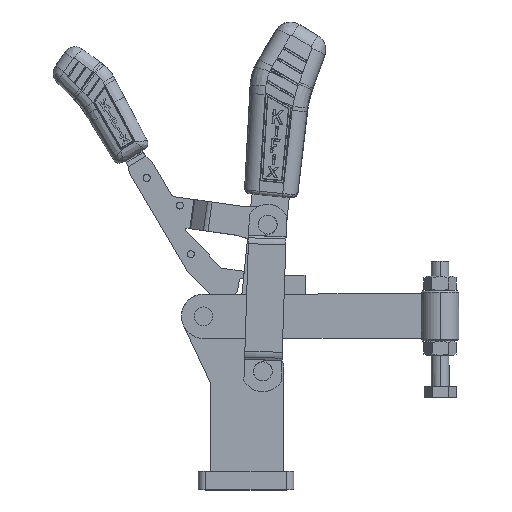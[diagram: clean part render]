
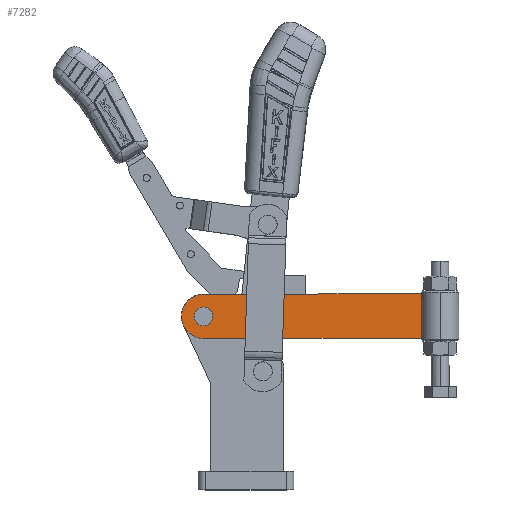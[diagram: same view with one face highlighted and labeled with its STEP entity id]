
A CAD part, top view. The second image highlights one B-rep face of the part: STEP entity #7282.
In plain terms, the highlighted planar face has unit normal (0, 0, 1) as drawn and (0, 0, -1) by its records, which use the part's own axes.
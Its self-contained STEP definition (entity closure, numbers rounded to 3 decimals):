
#303 = ORIENTED_EDGE ( 'NONE', *, *, #21301, .T. ) ;
#1673 = AXIS2_PLACEMENT_3D ( 'NONE', #21283, #28886, #6326 ) ;
#1869 = ORIENTED_EDGE ( 'NONE', *, *, #39823, .T. ) ;
#1916 = DIRECTION ( 'NONE',  ( 1., 0., 0. ) ) ;
#2179 = DIRECTION ( 'NONE',  ( 0., -1., 0. ) ) ;
#2609 = ORIENTED_EDGE ( 'NONE', *, *, #19086, .F. ) ;
#2858 = ORIENTED_EDGE ( 'NONE', *, *, #3631, .T. ) ;
#3048 = FACE_BOUND ( 'NONE', #26881, .T. ) ;
#3233 = VERTEX_POINT ( 'NONE', #37931 ) ;
#3631 = EDGE_CURVE ( 'NONE', #26176, #40599, #7822, .T. ) ;
#4741 = CIRCLE ( 'NONE', #23470, 6.35 ) ;
#5308 = AXIS2_PLACEMENT_3D ( 'NONE', #11832, #38110, #15589 ) ;
#5884 = VERTEX_POINT ( 'NONE', #27560 ) ;
#5962 = DIRECTION ( 'NONE',  ( 0., 0., 1. ) ) ;
#6326 = DIRECTION ( 'NONE',  ( 1., 0., 0. ) ) ;
#6743 = CARTESIAN_POINT ( 'NONE',  ( -15., 15., -12.5 ) ) ;
#7187 = VERTEX_POINT ( 'NONE', #43151 ) ;
#7282 = ADVANCED_FACE ( 'NONE', ( #3048, #41834, #21843 ), #17498, .F. ) ;
#7559 = ORIENTED_EDGE ( 'NONE', *, *, #14410, .F. ) ;
#7575 = EDGE_LOOP ( 'NONE', ( #303, #2858 ) ) ;
#7738 = ORIENTED_EDGE ( 'NONE', *, *, #16300, .F. ) ;
#7822 = CIRCLE ( 'NONE', #43914, 6.35 ) ;
#8034 = ORIENTED_EDGE ( 'NONE', *, *, #8338, .F. ) ;
#8338 = EDGE_CURVE ( 'NONE', #8989, #7187, #28289, .T. ) ;
#8534 = VECTOR ( 'NONE', #1916, 1000. ) ;
#8989 = VERTEX_POINT ( 'NONE', #6743 ) ;
#9788 = CARTESIAN_POINT ( 'NONE',  ( -54., 2.7, -12.5 ) ) ;
#11832 = CARTESIAN_POINT ( 'NONE',  ( -54., 2.7, -12.5 ) ) ;
#11881 = CARTESIAN_POINT ( 'NONE',  ( -15., 0., -12.5 ) ) ;
#13543 = DIRECTION ( 'NONE',  ( 1., 0., 0. ) ) ;
#14410 = EDGE_CURVE ( 'NONE', #3233, #5884, #17336, .T. ) ;
#14812 = VERTEX_POINT ( 'NONE', #25227 ) ;
#15589 = DIRECTION ( 'NONE',  ( 1., 0., 0. ) ) ;
#15636 = DIRECTION ( 'NONE',  ( 1., 0., 0. ) ) ;
#16300 = EDGE_CURVE ( 'NONE', #7187, #3233, #18950, .T. ) ;
#16902 = CARTESIAN_POINT ( 'NONE',  ( -15., 0., -12.5 ) ) ;
#17331 = ORIENTED_EDGE ( 'NONE', *, *, #17484, .T. ) ;
#17336 = LINE ( 'NONE', #46746, #8534 ) ;
#17484 = EDGE_CURVE ( 'NONE', #42593, #14812, #4741, .T. ) ;
#17498 = PLANE ( 'NONE',  #1673 ) ;
#18266 = VECTOR ( 'NONE', #40907, 1000. ) ;
#18950 = LINE ( 'NONE', #47187, #47777 ) ;
#19086 = EDGE_CURVE ( 'NONE', #5884, #8989, #35233, .T. ) ;
#20620 = EDGE_LOOP ( 'NONE', ( #7738, #8034, #2609, #7559 ) ) ;
#20687 = DIRECTION ( 'NONE',  ( 1., 0., 0. ) ) ;
#20694 = AXIS2_PLACEMENT_3D ( 'NONE', #16902, #43195, #20687 ) ;
#21283 = CARTESIAN_POINT ( 'NONE',  ( -15., 0., -12.5 ) ) ;
#21301 = EDGE_CURVE ( 'NONE', #40599, #26176, #39203, .T. ) ;
#21843 = FACE_OUTER_BOUND ( 'NONE', #20620, .T. ) ;
#22892 = AXIS2_PLACEMENT_3D ( 'NONE', #11881, #38149, #15636 ) ;
#23320 = CARTESIAN_POINT ( 'NONE',  ( -21.35, 0., -12.5 ) ) ;
#23470 = AXIS2_PLACEMENT_3D ( 'NONE', #28525, #5962, #32301 ) ;
#24369 = CARTESIAN_POINT ( 'NONE',  ( -60.35, 2.7, -12.5 ) ) ;
#25227 = CARTESIAN_POINT ( 'NONE',  ( -8.65, 0., -12.5 ) ) ;
#26176 = VERTEX_POINT ( 'NONE', #24369 ) ;
#26881 = EDGE_LOOP ( 'NONE', ( #1869, #17331 ) ) ;
#27514 = CARTESIAN_POINT ( 'NONE',  ( -47.65, 2.7, -12.5 ) ) ;
#27560 = CARTESIAN_POINT ( 'NONE',  ( -15., -15., -12.5 ) ) ;
#28289 = LINE ( 'NONE', #37123, #18266 ) ;
#28525 = CARTESIAN_POINT ( 'NONE',  ( -15., 0., -12.5 ) ) ;
#28886 = DIRECTION ( 'NONE',  ( 0., 0., 1. ) ) ;
#32301 = DIRECTION ( 'NONE',  ( 1., 0., 0. ) ) ;
#35233 = CIRCLE ( 'NONE', #22892, 15. ) ;
#36049 = DIRECTION ( 'NONE',  ( 0., 0., 1. ) ) ;
#37123 = CARTESIAN_POINT ( 'NONE',  ( -163., 15., -12.5 ) ) ;
#37264 = CIRCLE ( 'NONE', #20694, 6.35 ) ;
#37931 = CARTESIAN_POINT ( 'NONE',  ( -163., -15., -12.5 ) ) ;
#38110 = DIRECTION ( 'NONE',  ( 0., 0., 1. ) ) ;
#38149 = DIRECTION ( 'NONE',  ( 0., 0., 1. ) ) ;
#39203 = CIRCLE ( 'NONE', #5308, 6.35 ) ;
#39823 = EDGE_CURVE ( 'NONE', #14812, #42593, #37264, .T. ) ;
#40599 = VERTEX_POINT ( 'NONE', #27514 ) ;
#40907 = DIRECTION ( 'NONE',  ( -1., 0., 0. ) ) ;
#41834 = FACE_BOUND ( 'NONE', #7575, .T. ) ;
#42593 = VERTEX_POINT ( 'NONE', #23320 ) ;
#43151 = CARTESIAN_POINT ( 'NONE',  ( -163., 15., -12.5 ) ) ;
#43195 = DIRECTION ( 'NONE',  ( 0., 0., 1. ) ) ;
#43914 = AXIS2_PLACEMENT_3D ( 'NONE', #9788, #36049, #13543 ) ;
#46746 = CARTESIAN_POINT ( 'NONE',  ( -163., -15., -12.5 ) ) ;
#47187 = CARTESIAN_POINT ( 'NONE',  ( -163., 15., -12.5 ) ) ;
#47777 = VECTOR ( 'NONE', #2179, 1000. ) ;
